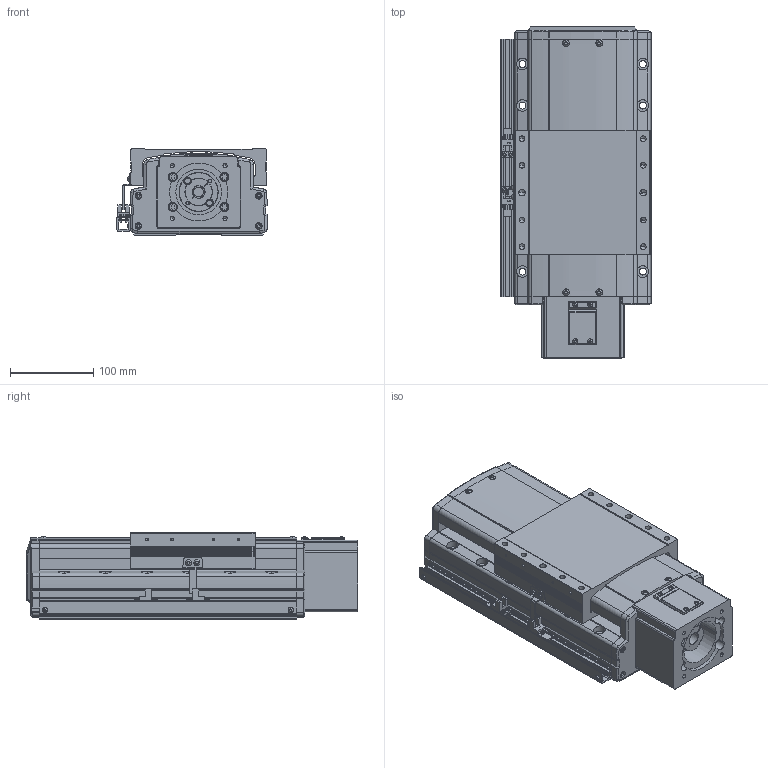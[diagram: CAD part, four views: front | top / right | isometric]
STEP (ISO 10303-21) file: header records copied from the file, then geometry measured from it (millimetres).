
FILE_DESCRIPTION(('STEP AP214'),'1');
FILE_NAME('Z:/Web/3D/PSA165/STP/PSA165-050 (3D)/PSA165ㅁㅁ-050S+2SL.stp','2014-06-23T06:20:00',(' '),(' '),'Spatial InterOp 3D',' ',' ');
FILE_SCHEMA(('automotive_design'));
Length unit declared in the file: millimetre
Products named in the file (81): 스크루 : Round - M4.0 x 12.0; RRCV-PA160; BASE; 스크루 : Round - M4.0 x 10.0; RN15; Screw 20; SLIDE; FRCV; 스크루 : Socket - M6.0 x 25.0; MTHZ-SAN150-80A; SSFX-SAN65; CPLCV-SAN65; 스크루 : Round - M3.0 x 6.0; SDWA47C(2); SDWA47C(3-1); SDWA47C(3); SDWA47C(1); SDWA47C(4); SDWA47C(5); M3.0 x 6.0; SRL-16x17-360L; SGD-SAN150; EE-SX674; SBK-SX674-352; BHCS M4.0 x 10.0
Bounding box: 181 x 399.8 x 104 mm (x, y, z)
Volume: 5300418.6 mm3; surface area: 570533.1 mm2
Topology: 81 solids, 81 shells, 3228 faces, 8563 edges, 5542 vertices
Faces by surface type: plane 1628, cylinder 1128, cone 347, sphere 66, bspline 35, torus 24
Entity records: 131939 total; most frequent: CARTESIAN_POINT 22494, DIRECTION 17873, ORIENTED_EDGE 16882, EDGE_CURVE 8441, AXIS2_PLACEMENT_3D 6371, VERTEX_POINT 5542, LINE 5131, VECTOR 5131
